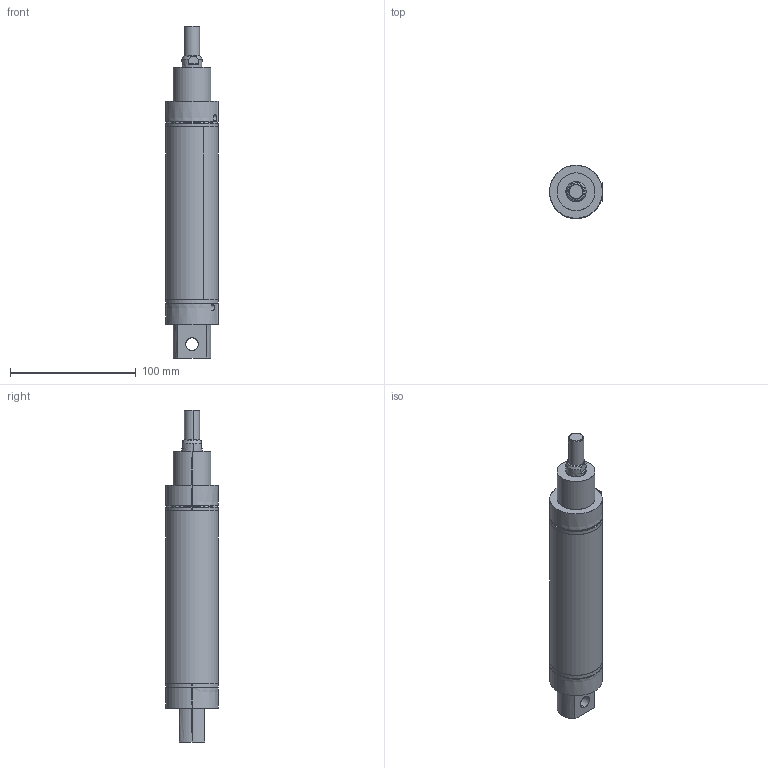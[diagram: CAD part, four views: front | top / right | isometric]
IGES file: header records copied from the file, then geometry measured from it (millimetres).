
Start section: SolidWorks IGES file using analytic representation for surfaces
Global section: file name: D:\ARICA 3D ÇÝZÝMLER\3D IGES\MAC6432S\MAC6432S-40\MAC6432S-40X100-CYLINDER.IGS; native system: SolidWorks 2013; preprocessor: SolidWorks 2013; author: user; date: 150824.111052; units: millimetre
Bounding box: 42 x 42 x 264 mm (x, y, z)
Surface area: 79990.8 mm2 (no closed solid volume)
Topology: 0 solids, 0 shells, 169 faces, 4571 edges, 4571 vertices
Faces by surface type: revolution 99, bspline 70
